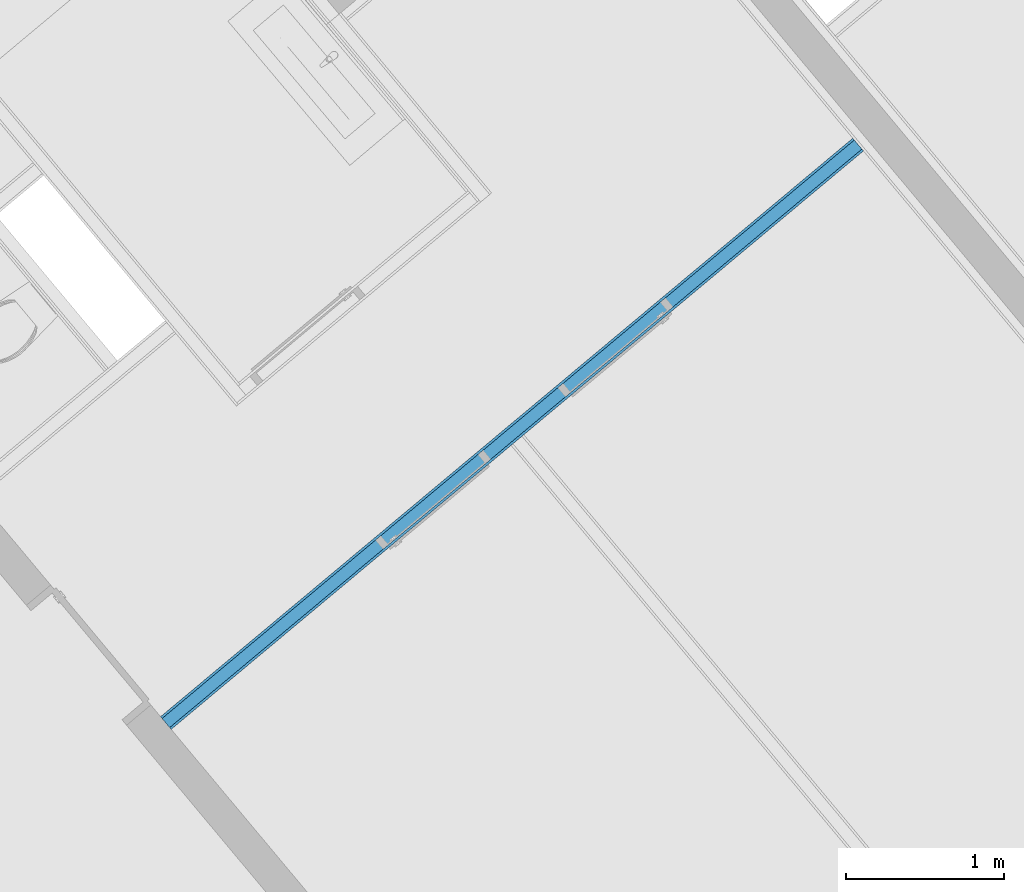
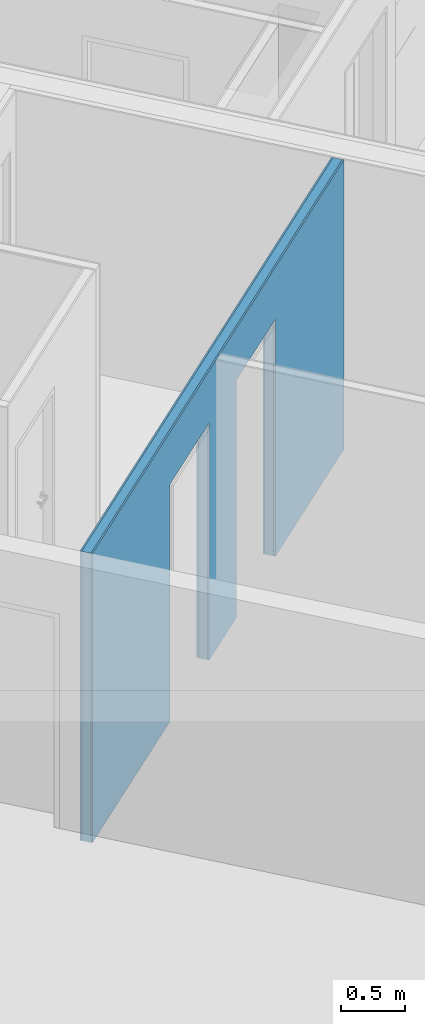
# One storey, part 13 of 53: 3 building element parts, 2 openings, 1 element without a shape of its own.
"""IFC4 building model written with IfcOpenShell, lengths in metres."""

from ifc_helpers import new_model, entity, si_unit, converted_unit, derived_unit, direction, frame, origin_with_axes, place, context, subcontext, project, spatial, polygons, material, type_object, element, aggregate, save


model = new_model("IFC4")

# Units and contexts
model_context = context("Model", 3, precision=1e-05, world=origin_with_axes(), true_north=direction((0.0, 1.0)))
body_context = subcontext(model_context, "Body", "Model", "MODEL_VIEW")
ifc_project = project(units=[si_unit("LENGTHUNIT", "METRE"), si_unit("AREAUNIT", "SQUARE_METRE"), si_unit("VOLUMEUNIT", "CUBIC_METRE"), converted_unit("PLANEANGLEUNIT", "DEGREE", entity("IfcPlaneAngleMeasure", 0.0174532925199), si_unit("PLANEANGLEUNIT", "RADIAN"), dimensions=[0, 0, 0, 0, 0, 0, 0]), converted_unit("TIMEUNIT", "Year", entity("IfcTimeMeasure", 31556926.0), si_unit("TIMEUNIT", "SECOND"), dimensions=[0, 0, 1, 0, 0, 0, 0]), si_unit("MASSUNIT", "GRAM", prefix="KILO"), si_unit("THERMODYNAMICTEMPERATUREUNIT", "DEGREE_CELSIUS"), si_unit("LUMINOUSINTENSITYUNIT", "LUMEN"), si_unit("ENERGYUNIT", "JOULE", prefix="MEGA"), derived_unit("THERMALCONDUCTANCEUNIT", [(si_unit("POWERUNIT", "WATT"), 1), (si_unit("LENGTHUNIT", "METRE"), -1), (si_unit("THERMODYNAMICTEMPERATUREUNIT", "KELVIN"), -1)]), derived_unit("SPECIFICHEATCAPACITYUNIT", [(si_unit("ENERGYUNIT", "JOULE"), 1), (si_unit("MASSUNIT", "GRAM", prefix="KILO"), -1), (si_unit("THERMODYNAMICTEMPERATUREUNIT", "KELVIN"), -1)]), derived_unit("MASSDENSITYUNIT", [(si_unit("MASSUNIT", "GRAM", prefix="KILO"), 1), (si_unit("VOLUMEUNIT", "CUBIC_METRE"), -1)])], contexts=[model_context])

# Site, building, storey
site_placement = place(None, frame((-0.00153261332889, -0.00661245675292, 0.0), z_axis=(0.0, 0.0, 1.0), x_axis=(1.0, 0.0, 0.0)))
site = spatial("IfcSite", under=ifc_project, at=site_placement, Name="Gelände", CompositionType="ELEMENT")
building_placement = place(site_placement, origin_with_axes())
building = spatial("IfcBuilding", under=site, at=building_placement, Name="Gebäude", CompositionType="ELEMENT")
storey_placement = place(building_placement, frame((0.0, 0.0, 2.74), z_axis=(0.0, 0.0, 1.0), x_axis=(1.0, 0.0, 0.0)))
storey = spatial("IfcBuildingStorey", under=building, at=storey_placement, Name="OG1", CompositionType="ELEMENT", Elevation=2.74)

# Wall, openings, building element parts
wall_type = type_object("IfcWallType", Name="IW LB 01 Leichtbautrennwand einfach 10,5 cm 105", PredefinedType="NOTDEFINED")
wall_placement = place(storey_placement, frame((4.97586165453, 20.0436517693, 0.0), z_axis=(0.0, 0.0, 1.0), x_axis=(-0.767365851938, -0.641209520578, 0.0)))
wall = element("IfcWall", 1, at=wall_placement, inside=storey, type_object=wall_type, Name="Wand-012", PredefinedType="NOTDEFINED")
opening_1_placement = place(wall_placement, frame((3.50803466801, 0.0, 0.22), z_axis=(0.0, 0.0, 1.0), x_axis=(1.0, 0.0, 0.0)))
element("IfcOpeningElement", 2, at=opening_1_placement, cuts=wall, Name="Tür-016", context=body_context, identifier="Reference", shape_type="Tessellation", body=[
    polygons([(-0.445, -2.91765554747, 2.045), (-0.445, -2.91765554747, -0.22), (0.445, -2.91765554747, -0.22), (0.445, -2.91765554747, 2.045), (-0.445, 2.81265554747, 2.045), (-0.445, 2.81265554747, -0.22), (0.445, 2.81265554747, -0.22), (0.445, 2.81265554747, 2.045)], [[[1, 2, 3, 4]], [[5, 6, 2, 1]], [[6, 7, 3, 2]], [[7, 8, 4, 3]], [[8, 5, 1, 4]], [[7, 6, 5, 8]]], closed=True),
])
opening_2_placement = place(wall_placement, frame((2.00304118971, 0.0, 0.22), z_axis=(0.0, 0.0, 1.0), x_axis=(1.0, 0.0, 0.0)))
element("IfcOpeningElement", 3, at=opening_2_placement, cuts=wall, Name="Tür-016", context=body_context, identifier="Reference", shape_type="Tessellation", body=[
    polygons([(-0.445, -2.91765554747, 2.045), (-0.445, -2.91765554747, -0.22), (0.445, -2.91765554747, -0.22), (0.445, -2.91765554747, 2.045), (-0.445, 2.81265554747, 2.045), (-0.445, 2.81265554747, -0.22), (0.445, 2.81265554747, -0.22), (0.445, 2.81265554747, 2.045)], [[[1, 2, 3, 4]], [[5, 6, 2, 1]], [[6, 7, 3, 2]], [[7, 8, 4, 3]], [[8, 5, 1, 4]], [[7, 6, 5, 8]]], closed=True),
])
ifc_material_1 = material(Name="Gipskarton")
building_element_part_1_placement = place(wall_placement, origin_with_axes())
building_element_part_1 = element("IfcBuildingElementPart", 4, at=building_element_part_1_placement, material=ifc_material_1, Name="Gipskarton", PredefinedType="NOTDEFINED", context=body_context, shape_type="Tessellation", body=[
    polygons([(2.44804118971, 5.07949771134e-09, 0.22), (2.44804118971, 9.54859658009e-09, 2.265), (1.55804118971, 9.54859658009e-09, 2.265), (1.55804118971, 2.1756141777e-08, 0.22), (1.55804118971, 2.17561400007e-08, 0.0), (0.0, 0.0, 0.0), (0.0, 0.0, 2.76), (5.71425587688, 0.0, 2.76), (5.71425587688, 0.0, 0.0), (3.95303466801, 9.54859658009e-09, 0.0), (3.95303466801, 9.54859302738e-09, 0.22), (3.95303466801, -2.80242105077e-08, 2.265), (3.06303466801, -2.80242122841e-08, 2.265), (3.06303466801, -2.80242122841e-08, 0.22), (3.06303469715, -2.80242105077e-08, 0.0), (2.44804118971, 5.07949948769e-09, 0.0), (2.44804118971, -0.015, 0.22), (2.44804118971, -0.015, 2.265), (1.55804118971, -0.015, 2.265), (1.55804118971, -0.015, 0.22), (1.55804118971, -0.015, 0.0), (-7.11748504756e-06, -0.015, 0.0), (-7.11748504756e-06, -0.015, 2.76), (5.71425587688, -0.015, 2.76), (5.71425587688, -0.015, 0.0), (3.95303466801, -0.015, 0.0), (3.95303466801, -0.015, 0.22), (3.95303466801, -0.015, 2.265), (3.06303466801, -0.015, 2.265), (3.06303466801, -0.015, 0.22), (3.06303469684, -0.015, 0.0), (2.44804118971, -0.015, 0.0)], [[[1, 2, 3, 4, 5, 6, 7, 8, 9, 10, 11, 12, 13, 14, 15, 16]], [[2, 1, 17, 18]], [[3, 2, 18, 19]], [[4, 3, 19, 20]], [[4, 20, 21, 5]], [[22, 6, 5, 21]], [[7, 6, 22, 23]], [[7, 23, 24, 8]], [[25, 9, 8, 24]], [[9, 25, 26, 10]], [[11, 10, 26, 27]], [[11, 27, 28, 12]], [[12, 28, 29, 13]], [[13, 29, 30, 14]], [[30, 31, 15, 14]], [[32, 16, 15, 31]], [[17, 1, 16, 32]], [[18, 17, 32, 31, 30, 29, 28, 27, 26, 25, 24, 23, 22, 21, 20, 19]]], closed=True),
])
ifc_material_2 = material(Name="Mineralwolle weich")
building_element_part_2_placement = place(wall_placement, origin_with_axes())
building_element_part_2 = element("IfcBuildingElementPart", 5, at=building_element_part_2_placement, material=ifc_material_2, Name="Mineralwolle weich", PredefinedType="NOTDEFINED", context=body_context, shape_type="Tessellation", body=[
    polygons([(2.44804118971, -0.015, 0.22), (2.44804118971, -0.015, 2.265), (1.55804118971, -0.015, 2.265), (1.55804118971, -0.015, 0.22), (1.55804118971, -0.015, 0.0), (-7.11748504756e-06, -0.015, 0.0), (-7.11748504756e-06, -0.015, 2.76), (5.71425587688, -0.015, 2.76), (5.71425587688, -0.015, 0.0), (3.95303466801, -0.015, 0.0), (3.95303466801, -0.015, 0.22), (3.95303466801, -0.015, 2.265), (3.06303466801, -0.015, 2.265), (3.06303466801, -0.015, 0.22), (3.06303469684, -0.015, 0.0), (2.44804118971, -0.015, 0.0), (2.44804118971, -0.09, 0.22), (2.44804118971, -0.09, 2.265), (1.55804118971, -0.09, 2.265), (1.55804118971, -0.09, 0.22), (1.55804118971, -0.09, 0.0), (-4.27048403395e-05, -0.09, 0.0), (-4.27048403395e-05, -0.09, 2.76), (5.71425587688, -0.09, 2.76), (5.71425587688, -0.09, 0.0), (3.95303466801, -0.09, 0.0), (3.95303466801, -0.09, 0.22), (3.95303466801, -0.09, 2.265), (3.06303466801, -0.09, 2.265), (3.06303466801, -0.09, 0.22), (3.0630346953, -0.09, 0.0), (2.44804118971, -0.09, 0.0)], [[[1, 2, 3, 4, 5, 6, 7, 8, 9, 10, 11, 12, 13, 14, 15, 16]], [[2, 1, 17, 18]], [[3, 2, 18, 19]], [[4, 3, 19, 20]], [[4, 20, 21, 5]], [[22, 6, 5, 21]], [[7, 6, 22, 23]], [[7, 23, 24, 8]], [[25, 9, 8, 24]], [[9, 25, 26, 10]], [[11, 10, 26, 27]], [[11, 27, 28, 12]], [[12, 28, 29, 13]], [[13, 29, 30, 14]], [[30, 31, 15, 14]], [[32, 16, 15, 31]], [[17, 1, 16, 32]], [[18, 17, 32, 31, 30, 29, 28, 27, 26, 25, 24, 23, 22, 21, 20, 19]]], closed=True),
])
building_element_part_3_placement = place(wall_placement, origin_with_axes())
building_element_part_3 = element("IfcBuildingElementPart", 6, at=building_element_part_3_placement, material=ifc_material_1, Name="Gipskarton", PredefinedType="NOTDEFINED", context=body_context, shape_type="Tessellation", body=[
    polygons([(2.44804118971, -0.09, 0.22), (2.44804118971, -0.09, 2.265), (1.55804118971, -0.09, 2.265), (1.55804118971, -0.09, 0.22), (1.55804118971, -0.09, 0.0), (-4.27048403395e-05, -0.09, 0.0), (-4.27048403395e-05, -0.09, 2.76), (5.71425587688, -0.09, 2.76), (5.71425587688, -0.09, 0.0), (3.95303466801, -0.09, 0.0), (3.95303466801, -0.09, 0.22), (3.95303466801, -0.09, 2.265), (3.06303466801, -0.09, 2.265), (3.06303466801, -0.09, 0.22), (3.0630346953, -0.09, 0.0), (2.44804118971, -0.09, 0.0), (2.44804118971, -0.105, 0.22), (2.44804118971, -0.105, 2.265), (1.55804118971, -0.105, 2.265), (1.55804118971, -0.105, 0.22), (1.55804118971, -0.105, 0.0), (-4.98223113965e-05, -0.105, 0.0), (-4.98223113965e-05, -0.105, 2.76), (5.71425587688, -0.105, 2.76), (5.71425587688, -0.105, 0.0), (3.95303466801, -0.105, 0.0), (3.95303466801, -0.105, 0.22), (3.95303466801, -0.105, 2.265), (3.06303466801, -0.105, 2.265), (3.06303466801, -0.105, 0.22), (3.06303469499, -0.105, 0.0), (2.44804118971, -0.105, 0.0)], [[[1, 2, 3, 4, 5, 6, 7, 8, 9, 10, 11, 12, 13, 14, 15, 16]], [[2, 1, 17, 18]], [[3, 2, 18, 19]], [[4, 3, 19, 20]], [[4, 20, 21, 5]], [[22, 6, 5, 21]], [[7, 6, 22, 23]], [[7, 23, 24, 8]], [[25, 9, 8, 24]], [[9, 25, 26, 10]], [[11, 10, 26, 27]], [[11, 27, 28, 12]], [[12, 28, 29, 13]], [[13, 29, 30, 14]], [[30, 31, 15, 14]], [[32, 16, 15, 31]], [[17, 1, 16, 32]], [[18, 17, 32, 31, 30, 29, 28, 27, 26, 25, 24, 23, 22, 21, 20, 19]]], closed=True),
])
aggregate(wall, [building_element_part_1, building_element_part_2, building_element_part_3])

save(model, "model.ifc")
